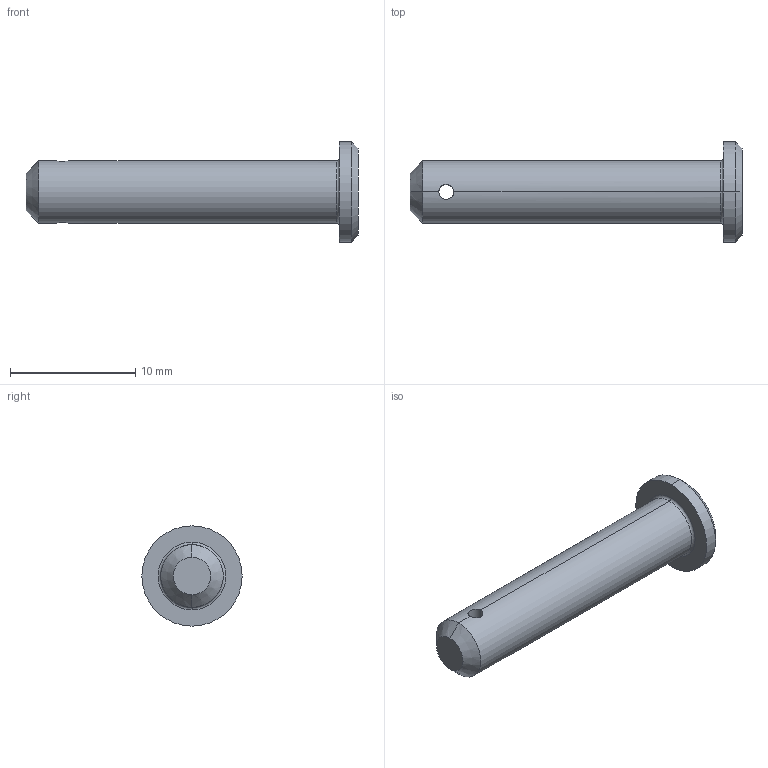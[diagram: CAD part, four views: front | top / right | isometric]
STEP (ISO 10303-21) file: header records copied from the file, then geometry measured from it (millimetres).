
FILE_DESCRIPTION (( 'STEP AP203' ), '1' );
FILE_NAME ('Wiberger-sms2360_5x25.step', '2012-10-09T08:57:55', ( 'Magnus' ), ( 'Wiberger' ), 'SwSTEP 2.0', 'SolidWorks 2011', '' );
FILE_SCHEMA (( 'CONFIG_CONTROL_DESIGN' ));
Length unit declared in the file: millimetre
Products named in the file (1): Wiberger-sms2360_5x25
Bounding box: 26.5 x 8 x 8 mm (x, y, z)
Volume: 551 mm3; surface area: 527.7 mm2
Topology: 1 solids, 1 shells, 15 faces, 32 edges, 18 vertices
Faces by surface type: cylinder 6, cone 4, plane 3, torus 2
Entity records: 511 total; most frequent: CARTESIAN_POINT 102, DIRECTION 76, ORIENTED_EDGE 64, EDGE_CURVE 32, AXIS2_PLACEMENT_3D 32, VERTEX_POINT 18, EDGE_LOOP 16, CIRCLE 16
